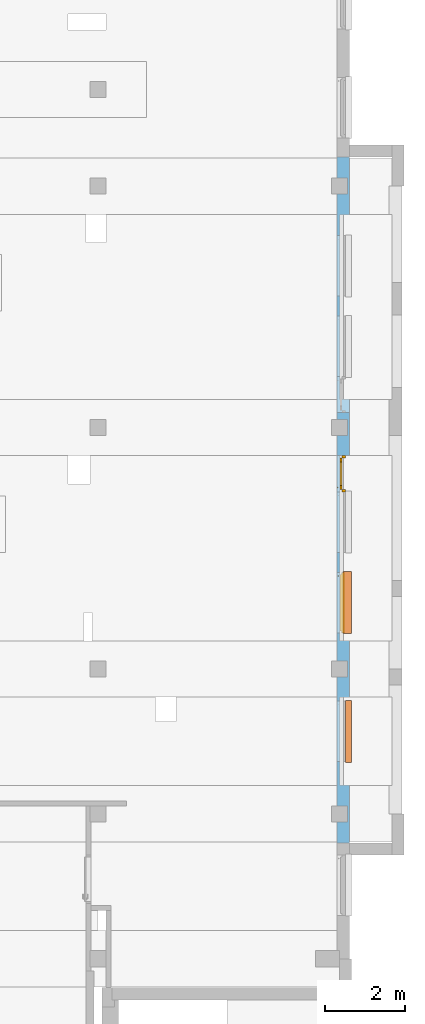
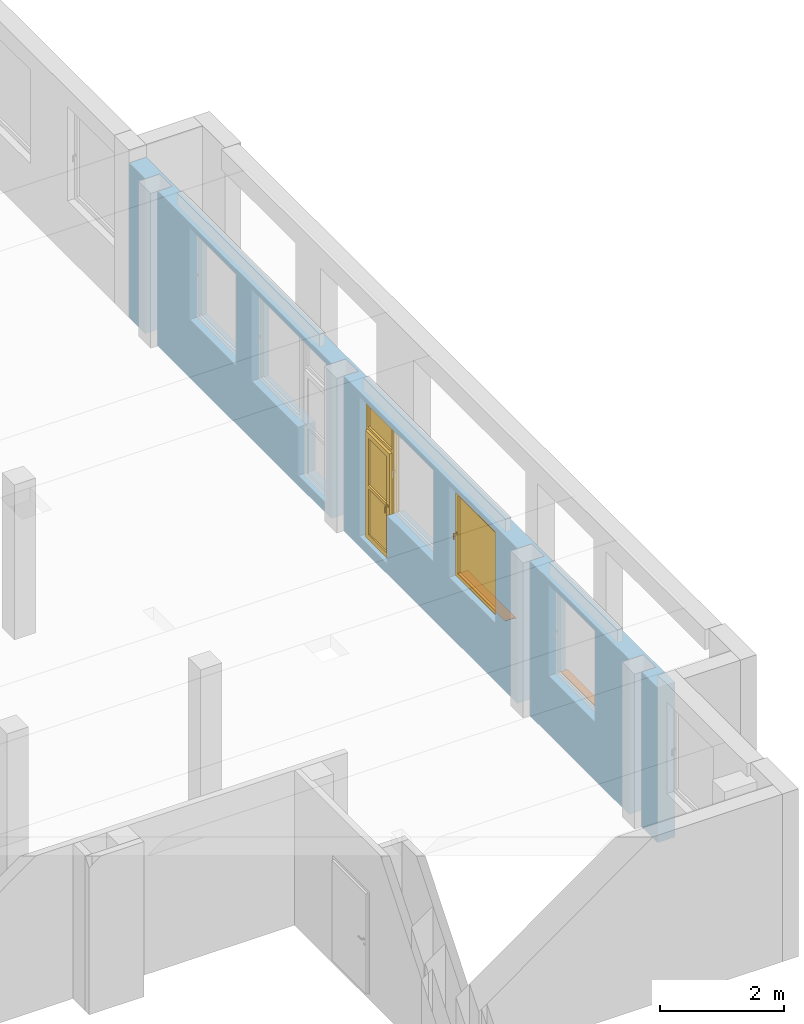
# One storey, part 17 of 27: 2 proxies, 1 door, 1 window, 7 openings, plus 1 element that does not belong to this part.
"""IFC4 building model written with IfcOpenShell, lengths in metres."""

from ifc_helpers import new_model, entity, si_unit, converted_unit, derived_unit, frame, origin, origin_with_axes, place, context, subcontext, project, spatial, polyline, outline, extrude, closed_shell, open_shell, faceted_brep, surface_model, source, transform, mapped, material, layer, layer_set, layer_usage, type_object, element, fill, save


model = new_model("IFC4")

# Units and contexts
model_context = context("Model", 3, precision=1e-05, world=origin())
body_context = subcontext(model_context, "Body", "Model", "MODEL_VIEW")
ifc_project = project(units=[si_unit("LENGTHUNIT", "METRE"), si_unit("AREAUNIT", "SQUARE_METRE"), si_unit("VOLUMEUNIT", "CUBIC_METRE"), si_unit("MASSUNIT", "GRAM", prefix="KILO"), converted_unit("PLANEANGLEUNIT", "DEGREE", entity("IfcPlaneAngleMeasure", 0.0174532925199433), si_unit("PLANEANGLEUNIT", "RADIAN"), dimensions=[0, 0, 0, 0, 0, 0, 0]), derived_unit("THERMALTRANSMITTANCEUNIT", [(si_unit("POWERUNIT", "WATT"), 1), (si_unit("THERMODYNAMICTEMPERATUREUNIT", "KELVIN"), -1), (si_unit("LENGTHUNIT", "METRE"), -2)]), derived_unit("VOLUMETRICFLOWRATEUNIT", [(si_unit("LENGTHUNIT", "METRE"), 3), (converted_unit("TIMEUNIT", "hour", entity("IfcTimeMeasure", 3600.0), si_unit("TIMEUNIT", "SECOND"), dimensions=[0, 0, 1, 0, 0, 0, 0]), -1), (si_unit("LENGTHUNIT", "METRE"), -1)])], contexts=[model_context])

# Site, building, storey
site_placement = place(None, origin())
site = spatial("IfcSite", under=ifc_project, at=site_placement, Name="3. ASŘ", CompositionType="ELEMENT")
building_placement = place(site_placement, origin())
building = spatial("IfcBuilding", under=site, at=building_placement, Name="Pavilon C", CompositionType="ELEMENT")
storey_placement = place(building_placement, frame((0.0, 0.0, 7.2)))
storey = spatial("IfcBuildingStorey", under=building, at=storey_placement, Name="Půdorys 3.NP", CompositionType="ELEMENT", Elevation=7.2)

# Wall, openings, window, door, proxies
ifc_material_1 = material(Name="PLYNOSILIKÁT")
ifc_layer = layer(ifc_material_1, 0.32)
ifc_layer_set = layer_set([ifc_layer])
ifc_layer_usage = layer_usage(ifc_layer_set, "AXIS2", "POSITIVE", 0.0)
wall_placement = place(storey_placement, frame((50.2, 2.88, -0.1), z_axis=(0.0, 0.0, 1.0), x_axis=(0.0, 1.0, 0.0)))
wall = element("IfcWall", 1, at=wall_placement, inside=storey, material=ifc_layer_usage, Name="PLYNOSILIKÁT", context=body_context, shape_type="SweptSolid", body=[
    extrude(outline(polyline([(0.0, -0.32), (17.04, -0.32), (17.04, 0.0), (16.52, 0.0), (16.52, -0.27), (16.12, -0.27), (16.12, 0.0), (10.52, 0.0), (10.52, -0.27), (10.12, -0.27), (10.12, 0.0), (4.52, 0.0), (4.52, -0.27), (4.12, -0.27), (4.12, 0.0), (0.919999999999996, 0.0), (0.919999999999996, -0.27), (0.519999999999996, -0.27), (0.519999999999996, 0.0), (0.0, 0.0), (0.0, -0.32)])), frame((0.0, 0.32, 0.0), z_axis=(0.0, 0.0, 1.0), x_axis=(1.0, 0.0, 0.0)), (0.0, 0.0, 1.0), 3.05),
])
opening_1_placement = place(wall_placement, frame((5.21999999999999, 0.0, 1.15), z_axis=(0.0, 1.0, 0.0), x_axis=(0.0, 0.0, 1.0)))
opening_1 = element("IfcOpeningElement", 2, at=opening_1_placement, cuts=wall, Name="Okenní otvor", ObjectType="Opening", context=body_context, shape_type="SweptSolid", body=[
    extrude(outline(polyline([(0.0, 1.5), (1.8, 1.5), (1.8, 0.0), (0.0, 0.0), (0.0, 1.5)])), origin_with_axes(), (0.0, 0.0, 1.0), 0.32),
])
opening_2_placement = place(wall_placement, frame((2.02, 0.0, 1.15), z_axis=(0.0, 1.0, 0.0), x_axis=(0.0, 0.0, 1.0)))
opening_2 = element("IfcOpeningElement", 3, at=opening_2_placement, cuts=wall, Name="Okenní otvor", ObjectType="Opening", context=body_context, shape_type="SweptSolid", body=[
    extrude(outline(polyline([(0.0, 1.5), (1.8, 1.5), (1.8, 0.0), (0.0, 0.0), (0.0, 1.5)])), origin_with_axes(), (0.0, 0.0, 1.0), 0.32),
])
opening_3_placement = place(wall_placement, frame((8.71999999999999, 0.0, 0.2), z_axis=(0.0, 1.0, 0.0), x_axis=(0.0, 0.0, 1.0)))
opening_3 = element("IfcOpeningElement", 4, at=opening_3_placement, cuts=wall, Name="Dveřní otvor", ObjectType="Opening", context=body_context, shape_type="SweptSolid", body=[
    extrude(outline(polyline([(0.0, 0.9), (2.75, 0.9), (2.75, 0.0), (0.0, 0.0), (0.0, 0.9)])), origin_with_axes(), (0.0, 0.0, 1.0), 0.32),
])
opening_4_placement = place(wall_placement, frame((7.21999999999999, 0.0, 1.15), z_axis=(0.0, 1.0, 0.0), x_axis=(0.0, 0.0, 1.0)))
element("IfcOpeningElement", 5, at=opening_4_placement, cuts=wall, Name="Okenní otvor", ObjectType="Opening", context=body_context, shape_type="SweptSolid", body=[
    extrude(outline(polyline([(0.0, 1.5), (1.8, 1.5), (1.8, 0.0), (0.0, 0.0), (0.0, 1.5)])), origin_with_axes(), (0.0, 0.0, 1.0), 0.32),
])
opening_5_placement = place(wall_placement, frame((13.59, 0.0, 1.15), z_axis=(0.0, 1.0, 0.0), x_axis=(0.0, 0.0, 1.0)))
element("IfcOpeningElement", 6, at=opening_5_placement, cuts=wall, Name="Okenní otvor", ObjectType="Opening", context=body_context, shape_type="SweptSolid", body=[
    extrude(outline(polyline([(0.0, 1.5), (1.8, 1.5), (1.8, 0.0), (0.0, 0.0), (0.0, 1.5)])), origin_with_axes(), (0.0, 0.0, 1.0), 0.32),
])
opening_6_placement = place(wall_placement, frame((11.59, 0.0, 1.15), z_axis=(0.0, 1.0, 0.0), x_axis=(0.0, 0.0, 1.0)))
element("IfcOpeningElement", 7, at=opening_6_placement, cuts=wall, Name="Okenní otvor", ObjectType="Opening", context=body_context, shape_type="SweptSolid", body=[
    extrude(outline(polyline([(0.0, 1.5), (1.8, 1.5), (1.8, 0.0), (0.0, 0.0), (0.0, 1.5)])), origin_with_axes(), (0.0, 0.0, 1.0), 0.32),
])
opening_7_placement = place(wall_placement, frame((10.69, 0.0, 0.2), z_axis=(0.0, 1.0, 0.0), x_axis=(0.0, 0.0, 1.0)))
element("IfcOpeningElement", 8, at=opening_7_placement, cuts=wall, Name="Dveřní otvor", ObjectType="Opening", context=body_context, shape_type="SweptSolid", body=[
    extrude(outline(polyline([(0.0, 0.9), (2.75, 0.9), (2.75, 0.0), (0.0, 0.0), (0.0, 0.9)])), origin_with_axes(), (0.0, 0.0, 1.0), 0.32),
])
shared_shape_1 = source(origin_with_axes(), body_context, "Body", "SurfaceModel", [
    surface_model("IfcShellBasedSurfaceModel", [(0.0, 0.182, 1.8), (0.0, 0.182, -5.63337527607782e-18), (0.08, 0.182, -5.63337527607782e-18), (0.08, 0.182, 1.8), (0.0, 0.0899999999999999, 5.63337527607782e-18), (0.0, 0.0900000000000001, 1.8), (0.08, 0.0900000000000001, 1.8), (0.08, 0.0899999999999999, 5.63337527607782e-18)], [closed_shell([[[0, 1, 2, 3]], [[4, 5, 6, 7]], [[1, 0, 5, 4]], [[2, 1, 4, 7]], [[3, 2, 7, 6]], [[0, 3, 6, 5]]], orient=[[False], [False], [False], [False], [False], [False]])]),
    surface_model("IfcShellBasedSurfaceModel", [(1.42, 0.182, 1.8), (1.42, 0.182, -5.63337527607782e-18), (1.5, 0.182, -5.63337527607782e-18), (1.5, 0.182, 1.8), (1.42, 0.0899999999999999, 5.63337527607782e-18), (1.42, 0.0900000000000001, 1.8), (1.5, 0.0900000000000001, 1.8), (1.5, 0.0899999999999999, 5.63337527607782e-18)], [closed_shell([[[0, 1, 2, 3]], [[4, 5, 6, 7]], [[1, 0, 5, 4]], [[2, 1, 4, 7]], [[3, 2, 7, 6]], [[0, 3, 6, 5]]], orient=[[False], [False], [False], [False], [False], [False]])]),
    surface_model("IfcShellBasedSurfaceModel", [(0.08, 0.182, 0.08), (0.08, 0.182, -5.63337527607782e-18), (1.42, 0.182, -5.63337527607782e-18), (1.42, 0.182, 0.08), (0.08, 0.0899999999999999, 5.63337527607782e-18), (0.08, 0.0899999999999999, 0.08), (1.42, 0.0899999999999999, 0.08), (1.42, 0.0899999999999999, 5.63337527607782e-18)], [closed_shell([[[0, 1, 2, 3]], [[4, 5, 6, 7]], [[1, 0, 5, 4]], [[2, 1, 4, 7]], [[3, 2, 7, 6]], [[0, 3, 6, 5]]], orient=[[False], [False], [False], [False], [False], [False]])]),
    surface_model("IfcShellBasedSurfaceModel", [(0.08, 0.182, 1.8), (0.08, 0.182, 1.72), (1.42, 0.182, 1.72), (1.42, 0.182, 1.8), (0.08, 0.0900000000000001, 1.72), (0.08, 0.0900000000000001, 1.8), (1.42, 0.0900000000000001, 1.8), (1.42, 0.0900000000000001, 1.72)], [closed_shell([[[0, 1, 2, 3]], [[4, 5, 6, 7]], [[1, 0, 5, 4]], [[2, 1, 4, 7]], [[3, 2, 7, 6]], [[0, 3, 6, 5]]], orient=[[False], [False], [False], [False], [False], [False]])]),
    surface_model("IfcShellBasedSurfaceModel", [(0.05, 0.145, 1.75), (0.05, 0.145, 0.05), (0.13, 0.145, 0.05), (0.13, 0.145, 1.75), (0.05, 0.0599999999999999, 0.05), (0.05, 0.0600000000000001, 1.75), (0.13, 0.0600000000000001, 1.75), (0.13, 0.0599999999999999, 0.05)], [closed_shell([[[0, 1, 2, 3]], [[4, 5, 6, 7]], [[1, 0, 5, 4]], [[2, 1, 4, 7]], [[3, 2, 7, 6]], [[0, 3, 6, 5]]], orient=[[False], [False], [False], [False], [False], [False]])]),
    surface_model("IfcShellBasedSurfaceModel", [(1.37, 0.145, 1.75), (1.37, 0.145, 0.05), (1.45, 0.145, 0.05), (1.45, 0.145, 1.75), (1.37, 0.0599999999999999, 0.05), (1.37, 0.0600000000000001, 1.75), (1.45, 0.0600000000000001, 1.75), (1.45, 0.0599999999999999, 0.05)], [closed_shell([[[0, 1, 2, 3]], [[4, 5, 6, 7]], [[1, 0, 5, 4]], [[2, 1, 4, 7]], [[3, 2, 7, 6]], [[0, 3, 6, 5]]], orient=[[False], [False], [False], [False], [False], [False]])]),
    surface_model("IfcShellBasedSurfaceModel", [(0.13, 0.145, 0.13), (0.13, 0.145, 0.05), (1.37, 0.145, 0.05), (1.37, 0.145, 0.13), (0.13, 0.0599999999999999, 0.05), (0.13, 0.0599999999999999, 0.13), (1.37, 0.0599999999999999, 0.13), (1.37, 0.0599999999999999, 0.05)], [closed_shell([[[0, 1, 2, 3]], [[4, 5, 6, 7]], [[1, 0, 5, 4]], [[2, 1, 4, 7]], [[3, 2, 7, 6]], [[0, 3, 6, 5]]], orient=[[False], [False], [False], [False], [False], [False]])]),
    surface_model("IfcShellBasedSurfaceModel", [(0.13, 0.145, 1.75), (0.13, 0.145, 1.67), (1.37, 0.145, 1.67), (1.37, 0.145, 1.75), (0.13, 0.0600000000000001, 1.67), (0.13, 0.0600000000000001, 1.75), (1.37, 0.0600000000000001, 1.75), (1.37, 0.0600000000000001, 1.67)], [closed_shell([[[0, 1, 2, 3]], [[4, 5, 6, 7]], [[1, 0, 5, 4]], [[2, 1, 4, 7]], [[3, 2, 7, 6]], [[0, 3, 6, 5]]], orient=[[False], [False], [False], [False], [False], [False]])]),
    surface_model("IfcShellBasedSurfaceModel", [(0.0775, 0.06, 0.92), (0.0775, 0.06, 0.88), (0.1025, 0.06, 0.88), (0.1025, 0.06, 0.92), (0.0775, 0.05, 0.88), (0.0775, 0.05, 0.92), (0.1025, 0.05, 0.92), (0.1025, 0.05, 0.88)], [closed_shell([[[0, 1, 2, 3]], [[4, 5, 6, 7]], [[1, 0, 5, 4]], [[2, 1, 4, 7]], [[3, 2, 7, 6]], [[0, 3, 6, 5]]], orient=[[False], [False], [False], [False], [False], [False]])]),
    surface_model("IfcShellBasedSurfaceModel", [(0.1, 0.05, 0.9), (0.0986602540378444, 0.05, 0.905), (0.095, 0.05, 0.908660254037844), (0.09, 0.05, 0.91), (0.085, 0.05, 0.908660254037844), (0.0813397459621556, 0.05, 0.905), (0.08, 0.05, 0.9), (0.0813397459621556, 0.05, 0.895), (0.085, 0.05, 0.891339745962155), (0.09, 0.05, 0.89), (0.095, 0.05, 0.891339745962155), (0.0986602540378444, 0.05, 0.895), (0.1, 0.01, 0.9), (0.0986602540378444, 0.00500000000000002, 0.905), (0.095, 0.00133974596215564, 0.908660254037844), (0.09, 2.48689957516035e-17, 0.91), (0.085, 0.00133974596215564, 0.908660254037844), (0.0813397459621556, 0.00500000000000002, 0.905), (0.08, 0.01, 0.9), (0.0813397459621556, 0.015, 0.895), (0.085, 0.0186602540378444, 0.891339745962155), (0.09, 0.02, 0.89), (0.095, 0.0186602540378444, 0.891339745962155), (0.0986602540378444, 0.015, 0.895), (0.1, 0.01, 0.785), (0.0986602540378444, 0.005, 0.785), (0.095, 0.00133974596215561, 0.785), (0.09, -3.5527136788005e-18, 0.785), (0.085, 0.00133974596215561, 0.785), (0.0813397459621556, 0.005, 0.785), (0.08, 0.01, 0.785), (0.0813397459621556, 0.015, 0.785), (0.085, 0.0186602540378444, 0.785), (0.09, 0.02, 0.785), (0.095, 0.0186602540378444, 0.785), (0.0986602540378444, 0.015, 0.785)], [open_shell([[[0, 1, 2, 3, 4, 5, 6, 7, 8, 9, 10, 11]], [[0, 12, 13, 1]], [[1, 13, 14, 2]], [[2, 14, 15, 3]], [[3, 15, 16, 4]], [[4, 16, 17, 5]], [[5, 17, 18, 6]], [[6, 18, 19, 7]], [[7, 19, 20, 8]], [[8, 20, 21, 9]], [[9, 21, 22, 10]], [[10, 22, 23, 11]], [[11, 23, 12, 0]], [[12, 24, 25, 13]], [[13, 25, 26, 14]], [[14, 26, 27, 15]], [[15, 27, 28, 16]], [[16, 28, 29, 17]], [[17, 29, 30, 18]], [[18, 30, 31, 19]], [[19, 31, 32, 20]], [[20, 32, 33, 21]], [[21, 33, 34, 22]], [[22, 34, 35, 23]], [[23, 35, 24, 12]]], orient=[[False], [False], [False], [False], [False], [False], [False], [False], [False], [False], [False], [False], [False], [False], [False], [False], [False], [False], [False], [False], [False], [False], [False], [False], [False]])]),
    surface_model("IfcShellBasedSurfaceModel", [(0.13, 0.1025, 0.13), (1.37, 0.1025, 0.13), (1.37, 0.1025, 1.67), (0.13, 0.1025, 1.67)], [open_shell([[[0, 1, 2, 3]]], orient=[[False]])]),
])
window_placement = place(opening_1_placement, frame((0.0, 1.5, 0.296000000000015), z_axis=(1.0, 0.0, 0.0), x_axis=(0.0, -0.999999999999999, 2.4492935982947e-16)))
window = element("IfcWindow", 9, at=window_placement, inside=storey, Name="O06", OverallHeight=1.8, OverallWidth=1.5, PartitioningType="USERDEFINED", PredefinedType="WINDOW", context=body_context, shape_type="MappedRepresentation", body=[
    mapped(shared_shape_1, transform((0.0, 0.0, 0.0), x_axis=(1.0, 0.0, 0.0), y_axis=(0.0, 1.0, 0.0), z_axis=(0.0, 0.0, 1.0), scale=0.999999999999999)),
])
fill(opening_1, window)
door_type = type_object("IfcDoorType", Name="D701", OperationType="NOTDEFINED", ParameterTakesPrecedence=False, PredefinedType="DOOR")
shared_shape_2 = source(origin_with_axes(), body_context, "Body", "SurfaceModel", [
    surface_model("IfcShellBasedSurfaceModel", [(0.0, 0.0920000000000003, 2.75), (0.0, 0.092, 8.57747943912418e-18), (0.06, 0.092, 8.57747943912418e-18), (0.06, 0.0920000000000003, 2.75), (0.0, 0.0, 1.98442299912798e-17), (0.0, 3.41060513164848e-16, 2.75), (0.06, 3.41060513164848e-16, 2.75), (0.06, 0.0, 1.98442299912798e-17)], [closed_shell([[[0, 1, 2, 3]], [[4, 5, 6, 7]], [[1, 0, 5, 4]], [[2, 1, 4, 7]], [[3, 2, 7, 6]], [[0, 3, 6, 5]]], orient=[[False], [False], [False], [False], [False], [False]])]),
    surface_model("IfcShellBasedSurfaceModel", [(0.84, 0.0920000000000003, 2.75), (0.84, 0.092, 8.57747943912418e-18), (0.9, 0.092, 8.57747943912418e-18), (0.9, 0.0920000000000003, 2.75), (0.84, 0.0, 1.98442299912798e-17), (0.84, 3.41060513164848e-16, 2.75), (0.9, 3.41060513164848e-16, 2.75), (0.9, 0.0, 1.98442299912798e-17)], [closed_shell([[[0, 1, 2, 3]], [[4, 5, 6, 7]], [[1, 0, 5, 4]], [[2, 1, 4, 7]], [[3, 2, 7, 6]], [[0, 3, 6, 5]]], orient=[[False], [False], [False], [False], [False], [False]])]),
    surface_model("IfcShellBasedSurfaceModel", [(0.06, 0.0920000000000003, 2.75), (0.06, 0.0920000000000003, 2.69), (0.84, 0.0920000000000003, 2.69), (0.84, 0.0920000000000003, 2.75), (0.06, 3.26849658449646e-16, 2.69), (0.06, 3.41060513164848e-16, 2.75), (0.84, 3.41060513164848e-16, 2.75), (0.84, 3.26849658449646e-16, 2.69)], [closed_shell([[[0, 1, 2, 3]], [[4, 5, 6, 7]], [[1, 0, 5, 4]], [[2, 1, 4, 7]], [[3, 2, 7, 6]], [[0, 3, 6, 5]]], orient=[[False], [False], [False], [False], [False], [False]])]),
    surface_model("IfcShellBasedSurfaceModel", [(0.06, 0.0920000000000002, 2.15), (0.06, 0.0920000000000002, 2.1), (0.84, 0.0920000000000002, 2.1), (0.84, 0.0920000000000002, 2.15), (0.06, 2.55795384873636e-16, 2.1), (0.06, 2.55795384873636e-16, 2.15), (0.84, 2.55795384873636e-16, 2.15), (0.84, 2.55795384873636e-16, 2.1)], [closed_shell([[[0, 1, 2, 3]], [[4, 5, 6, 7]], [[1, 0, 5, 4]], [[2, 1, 4, 7]], [[3, 2, 7, 6]], [[0, 3, 6, 5]]], orient=[[False], [False], [False], [False], [False], [False]])]),
    surface_model("IfcShellBasedSurfaceModel", [(0.06, 0.142, 2.1), (0.06, 0.142, 2.45424544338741e-18), (0.16, 0.142, 2.45424544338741e-18), (0.16, 0.142, 2.1), (0.06, 0.092, 8.57747943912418e-18), (0.06, 0.0920000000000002, 2.1), (0.16, 0.0920000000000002, 2.1), (0.16, 0.092, 8.57747943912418e-18)], [closed_shell([[[0, 1, 2, 3]], [[4, 5, 6, 7]], [[1, 0, 5, 4]], [[2, 1, 4, 7]], [[3, 2, 7, 6]], [[0, 3, 6, 5]]], orient=[[False], [False], [False], [False], [False], [False]])]),
    surface_model("IfcShellBasedSurfaceModel", [(0.74, 0.142, 2.1), (0.74, 0.142, 2.45424544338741e-18), (0.84, 0.142, 2.45424544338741e-18), (0.84, 0.142, 2.1), (0.74, 0.092, 8.57747943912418e-18), (0.74, 0.0920000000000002, 2.1), (0.84, 0.0920000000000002, 2.1), (0.84, 0.092, 8.57747943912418e-18)], [closed_shell([[[0, 1, 2, 3]], [[4, 5, 6, 7]], [[1, 0, 5, 4]], [[2, 1, 4, 7]], [[3, 2, 7, 6]], [[0, 3, 6, 5]]], orient=[[False], [False], [False], [False], [False], [False]])]),
    surface_model("IfcShellBasedSurfaceModel", [(0.16, 0.142, 0.1), (0.16, 0.142, 2.45424544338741e-18), (0.74, 0.142, 2.45424544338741e-18), (0.74, 0.142, 0.1), (0.16, 0.092, 8.57747943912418e-18), (0.16, 0.092, 0.1), (0.74, 0.092, 0.1), (0.74, 0.092, 8.57747943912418e-18)], [closed_shell([[[0, 1, 2, 3]], [[4, 5, 6, 7]], [[1, 0, 5, 4]], [[2, 1, 4, 7]], [[3, 2, 7, 6]], [[0, 3, 6, 5]]], orient=[[False], [False], [False], [False], [False], [False]])]),
    surface_model("IfcShellBasedSurfaceModel", [(0.16, 0.142, 2.1), (0.16, 0.142, 2.0), (0.74, 0.142, 2.0), (0.74, 0.142, 2.1), (0.16, 0.0920000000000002, 2.0), (0.16, 0.0920000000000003, 2.1), (0.74, 0.0920000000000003, 2.1), (0.74, 0.0920000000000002, 2.0)], [closed_shell([[[0, 1, 2, 3]], [[4, 5, 6, 7]], [[1, 0, 5, 4]], [[2, 1, 4, 7]], [[3, 2, 7, 6]], [[0, 3, 6, 5]]], orient=[[False], [False], [False], [False], [False], [False]])]),
    surface_model("IfcShellBasedSurfaceModel", [(0.7775, 0.142, 1.07), (0.8025, 0.142, 1.07), (0.8025, 0.142, 1.03), (0.7775, 0.142, 1.03), (0.7775, 0.152, 1.03), (0.8025, 0.152, 1.03), (0.8025, 0.152, 1.07), (0.7775, 0.152, 1.07)], [closed_shell([[[0, 1, 2, 3]], [[4, 5, 6, 7]], [[3, 4, 7, 0]], [[2, 5, 4, 3]], [[1, 6, 5, 2]], [[0, 7, 6, 1]]], orient=[[False], [False], [False], [False], [False], [False]])]),
    surface_model("IfcShellBasedSurfaceModel", [(0.8, 0.152, 1.05), (0.798660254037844, 0.152, 1.045), (0.795, 0.152, 1.04133974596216), (0.79, 0.152, 1.04), (0.785, 0.152, 1.04133974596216), (0.781339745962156, 0.152, 1.045), (0.78, 0.152, 1.05), (0.781339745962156, 0.152, 1.055), (0.785, 0.152, 1.05866025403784), (0.79, 0.152, 1.06), (0.795, 0.152, 1.05866025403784), (0.798660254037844, 0.152, 1.055), (0.798660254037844, 0.197, 1.055), (0.8, 0.192, 1.05), (0.795, 0.200660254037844, 1.05866025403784), (0.79, 0.202, 1.06), (0.785, 0.200660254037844, 1.05866025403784), (0.781339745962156, 0.197, 1.055), (0.78, 0.192, 1.05), (0.781339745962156, 0.187, 1.045), (0.785, 0.183339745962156, 1.04133974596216), (0.79, 0.182, 1.04), (0.795, 0.183339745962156, 1.04133974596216), (0.798660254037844, 0.187, 1.045), (0.798660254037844, 0.197, 0.935), (0.8, 0.192, 0.935), (0.795, 0.200660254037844, 0.935), (0.79, 0.202, 0.935), (0.785, 0.200660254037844, 0.935), (0.781339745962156, 0.197, 0.935), (0.78, 0.192, 0.935), (0.781339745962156, 0.187, 0.935), (0.785, 0.183339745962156, 0.935), (0.79, 0.182, 0.935), (0.795, 0.183339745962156, 0.935), (0.798660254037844, 0.187, 0.935)], [open_shell([[[0, 1, 2, 3, 4, 5, 6, 7, 8, 9, 10, 11]], [[0, 11, 12, 13]], [[11, 10, 14, 12]], [[10, 9, 15, 14]], [[9, 8, 16, 15]], [[8, 7, 17, 16]], [[7, 6, 18, 17]], [[6, 5, 19, 18]], [[5, 4, 20, 19]], [[4, 3, 21, 20]], [[3, 2, 22, 21]], [[2, 1, 23, 22]], [[1, 0, 13, 23]], [[13, 12, 24, 25]], [[12, 14, 26, 24]], [[14, 15, 27, 26]], [[15, 16, 28, 27]], [[16, 17, 29, 28]], [[17, 18, 30, 29]], [[18, 19, 31, 30]], [[19, 20, 32, 31]], [[20, 21, 33, 32]], [[21, 22, 34, 33]], [[22, 23, 35, 34]], [[23, 13, 25, 35]]], orient=[[False], [False], [False], [False], [False], [False], [False], [False], [False], [False], [False], [False], [False], [False], [False], [False], [False], [False], [False], [False], [False], [False], [False], [False], [False]])]),
    surface_model("IfcShellBasedSurfaceModel", [(0.06, 0.0560000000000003, 2.69), (0.06, 0.0560000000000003, 2.15), (0.84, 0.0560000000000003, 2.15), (0.84, 0.0560000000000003, 2.69), (0.06, 0.0360000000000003, 2.15), (0.06, 0.0360000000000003, 2.69), (0.84, 0.0360000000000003, 2.69), (0.84, 0.0360000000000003, 2.15)], [closed_shell([[[0, 1, 2, 3]], [[4, 5, 6, 7]], [[1, 0, 5, 4]], [[2, 1, 4, 7]], [[3, 2, 7, 6]], [[0, 3, 6, 5]]], orient=[[False], [False], [False], [False], [False], [False]])]),
    surface_model("IfcShellBasedSurfaceModel", [(0.16, 0.152, 1.08), (0.16, 0.152, 1.02), (0.74, 0.152, 1.02), (0.74, 0.152, 1.08), (0.16, 0.0820000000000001, 1.02), (0.16, 0.0820000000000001, 1.08), (0.74, 0.0820000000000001, 1.08), (0.74, 0.0820000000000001, 1.02)], [closed_shell([[[0, 1, 2, 3]], [[4, 5, 6, 7]], [[1, 0, 5, 4]], [[2, 1, 4, 7]], [[3, 2, 7, 6]], [[0, 3, 6, 5]]], orient=[[False], [False], [False], [False], [False], [False]])]),
    surface_model("IfcShellBasedSurfaceModel", [(0.16, 0.117, 0.1), (0.74, 0.117, 0.1), (0.74, 0.117, 1.02), (0.16, 0.117, 1.02)], [open_shell([[[0, 1, 2, 3]]], orient=[[False]])]),
    surface_model("IfcShellBasedSurfaceModel", [(0.16, 0.117, 1.08), (0.74, 0.117, 1.08), (0.74, 0.117, 2.0), (0.16, 0.117, 2.0)], [open_shell([[[0, 1, 2, 3]]], orient=[[False]])]),
])
door_placement = place(opening_3_placement, frame((0.0, 0.899999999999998, 0.100000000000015), z_axis=(1.0, 0.0, 0.0), x_axis=(0.0, -1.0, 1.22464679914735e-16)))
door = element("IfcDoor", 10, at=door_placement, inside=storey, type_object=door_type, Name="D701", OverallHeight=2.75, OverallWidth=0.9, context=body_context, shape_type="MappedRepresentation", body=[
    mapped(shared_shape_2, transform((0.0, 0.0, 0.0), x_axis=(1.0, 0.0, 0.0), y_axis=(0.0, -1.0, 0.0), z_axis=(0.0, 0.0, 1.0), scale=1.0)),
])
fill(opening_3, door)
ifc_material_2 = material(Name="PLECH")
shared_shape_3 = source(origin_with_axes(), body_context, "Body", "Brep", [
    faceted_brep([(-1.81898940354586e-15, 1.45519152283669e-14, 0.0), (-1.81898940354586e-15, 0.160000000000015, 0.0), (-1.81898940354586e-15, 0.160000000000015, 0.005), (-1.81898940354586e-15, 1.45519152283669e-14, 0.005), (1.5, 1.45519152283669e-14, 0.0), (1.5, 1.45519152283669e-14, 0.005), (1.5, 0.160000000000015, 0.005), (1.5, 0.160000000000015, 0.0), (-0.0200000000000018, 1.45519152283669e-14, 0.0), (-0.0200000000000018, -0.0349999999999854, 0.0), (1.52, -0.0349999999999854, 0.0), (1.52, 1.45519152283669e-14, 0.0), (1.52, 1.45519152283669e-14, 0.005), (1.52, -0.0399999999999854, 0.005), (-0.0200000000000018, -0.0399999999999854, 0.005), (-0.0200000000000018, 1.45519152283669e-14, 0.005), (-0.0200000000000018, -0.0399999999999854, -0.025), (-0.0200000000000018, -0.0349999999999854, -0.025), (1.52, -0.0349999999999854, -0.025), (1.52, -0.0399999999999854, -0.025)], [[[0, 1, 2, 3]], [[4, 5, 6, 7]], [[1, 0, 8, 9, 10, 11, 4, 7]], [[2, 1, 7, 6]], [[3, 2, 6, 5, 12, 13, 14, 15]], [[8, 15, 14, 16, 17, 9]], [[11, 10, 18, 19, 13, 12]], [[15, 8, 0, 3]], [[5, 4, 11, 12]], [[16, 14, 13, 19]], [[17, 16, 19, 18]], [[9, 17, 18, 10]]], orient=[[False], [False], [False], [False], [False], [False], [False], [False], [False], [False], [False], [False]]),
    faceted_brep([(-0.0200000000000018, 1.45519152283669e-14, 0.0), (-0.0200000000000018, 0.160000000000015, 0.0), (-0.0200000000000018, 0.160000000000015, 0.005), (-0.0200000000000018, 1.45519152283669e-14, 0.005), (-1.81898940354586e-15, 1.45519152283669e-14, 0.0), (-1.81898940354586e-15, 1.45519152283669e-14, 0.005), (-1.81898940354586e-15, 0.160000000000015, 0.005), (-1.81898940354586e-15, 0.160000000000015, 0.0)], [[[0, 1, 2, 3]], [[4, 5, 6, 7]], [[1, 0, 4, 7]], [[2, 1, 7, 6]], [[3, 2, 6, 5]], [[0, 3, 5, 4]]], orient=[[False], [False], [False], [False], [False], [False]]),
    faceted_brep([(1.5, 1.45519152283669e-14, 0.0), (1.5, 0.160000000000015, 0.0), (1.5, 0.160000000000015, 0.005), (1.5, 1.45519152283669e-14, 0.005), (1.52, 1.45519152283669e-14, 0.0), (1.52, 1.45519152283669e-14, 0.005), (1.52, 0.160000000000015, 0.005), (1.52, 0.160000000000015, 0.0)], [[[0, 1, 2, 3]], [[4, 5, 6, 7]], [[1, 0, 4, 7]], [[2, 1, 7, 6]], [[3, 2, 6, 5]], [[0, 3, 5, 4]]], orient=[[False], [False], [False], [False], [False], [False]]),
])
proxy_1_placement = place(opening_1_placement, frame((0.0, 0.0, 0.0), z_axis=(1.0, 0.0, 0.0), x_axis=(0.0, 1.0, 0.0)))
proxy_1 = element("IfcBuildingElementProxy", 11, at=proxy_1_placement, inside=storey, material=ifc_material_2, Name="Parapet vnější", context=body_context, shape_type="MappedRepresentation", body=[
    mapped(shared_shape_3, transform((0.0, 0.0, 0.0), x_axis=(1.0, 0.0, 0.0), y_axis=(0.0, 1.0, 0.0), z_axis=(0.0, 0.0, 1.0), scale=1.0)),
])
fill(opening_1, proxy_1)
ifc_material_3 = material(Name="PLECH")
shared_shape_4 = source(origin_with_axes(), body_context, "Body", "Brep", [
    faceted_brep([(-1.81898940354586e-15, 1.45519152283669e-14, 0.0), (-1.81898940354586e-15, 0.100000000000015, 0.0), (-1.81898940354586e-15, 0.100000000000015, 0.005), (-1.81898940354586e-15, 1.45519152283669e-14, 0.005), (1.5, 1.45519152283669e-14, 0.0), (1.5, 1.45519152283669e-14, 0.005), (1.5, 0.100000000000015, 0.005), (1.5, 0.100000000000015, 0.0), (-0.0200000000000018, 1.45519152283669e-14, 0.0), (-0.0200000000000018, -0.0349999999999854, 0.0), (1.52, -0.0349999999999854, 0.0), (1.52, 1.45519152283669e-14, 0.0), (1.52, 1.45519152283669e-14, 0.005), (1.52, -0.0399999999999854, 0.005), (-0.0200000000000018, -0.0399999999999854, 0.005), (-0.0200000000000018, 1.45519152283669e-14, 0.005), (-0.0200000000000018, -0.0399999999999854, -0.025), (-0.0200000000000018, -0.0349999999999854, -0.025), (1.52, -0.0349999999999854, -0.025), (1.52, -0.0399999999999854, -0.025)], [[[0, 1, 2, 3]], [[4, 5, 6, 7]], [[1, 0, 8, 9, 10, 11, 4, 7]], [[2, 1, 7, 6]], [[3, 2, 6, 5, 12, 13, 14, 15]], [[8, 15, 14, 16, 17, 9]], [[11, 10, 18, 19, 13, 12]], [[15, 8, 0, 3]], [[5, 4, 11, 12]], [[16, 14, 13, 19]], [[17, 16, 19, 18]], [[9, 17, 18, 10]]], orient=[[False], [False], [False], [False], [False], [False], [False], [False], [False], [False], [False], [False]]),
    faceted_brep([(-0.0200000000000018, 1.45519152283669e-14, 0.0), (-0.0200000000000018, 0.100000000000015, 0.0), (-0.0200000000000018, 0.100000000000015, 0.005), (-0.0200000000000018, 1.45519152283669e-14, 0.005), (-1.81898940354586e-15, 1.45519152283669e-14, 0.0), (-1.81898940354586e-15, 1.45519152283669e-14, 0.005), (-1.81898940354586e-15, 0.100000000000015, 0.005), (-1.81898940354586e-15, 0.100000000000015, 0.0)], [[[0, 1, 2, 3]], [[4, 5, 6, 7]], [[1, 0, 4, 7]], [[2, 1, 7, 6]], [[3, 2, 6, 5]], [[0, 3, 5, 4]]], orient=[[False], [False], [False], [False], [False], [False]]),
    faceted_brep([(1.5, 1.45519152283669e-14, 0.0), (1.5, 0.100000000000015, 0.0), (1.5, 0.100000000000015, 0.005), (1.5, 1.45519152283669e-14, 0.005), (1.52, 1.45519152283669e-14, 0.0), (1.52, 1.45519152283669e-14, 0.005), (1.52, 0.100000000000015, 0.005), (1.52, 0.100000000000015, 0.0)], [[[0, 1, 2, 3]], [[4, 5, 6, 7]], [[1, 0, 4, 7]], [[2, 1, 7, 6]], [[3, 2, 6, 5]], [[0, 3, 5, 4]]], orient=[[False], [False], [False], [False], [False], [False]]),
])
proxy_2_placement = place(opening_2_placement, frame((0.0, 0.0, 0.0), z_axis=(1.0, 0.0, 0.0), x_axis=(0.0, 1.0, 0.0)))
proxy_2 = element("IfcBuildingElementProxy", 12, at=proxy_2_placement, inside=storey, material=ifc_material_3, Name="Parapet vnější", context=body_context, shape_type="MappedRepresentation", body=[
    mapped(shared_shape_4, transform((0.0, 0.0, 0.0), x_axis=(1.0, 0.0, 0.0), y_axis=(0.0, 1.0, 0.0), z_axis=(0.0, 0.0, 1.0), scale=1.0)),
])
fill(opening_2, proxy_2)

save(model, "model.ifc")
